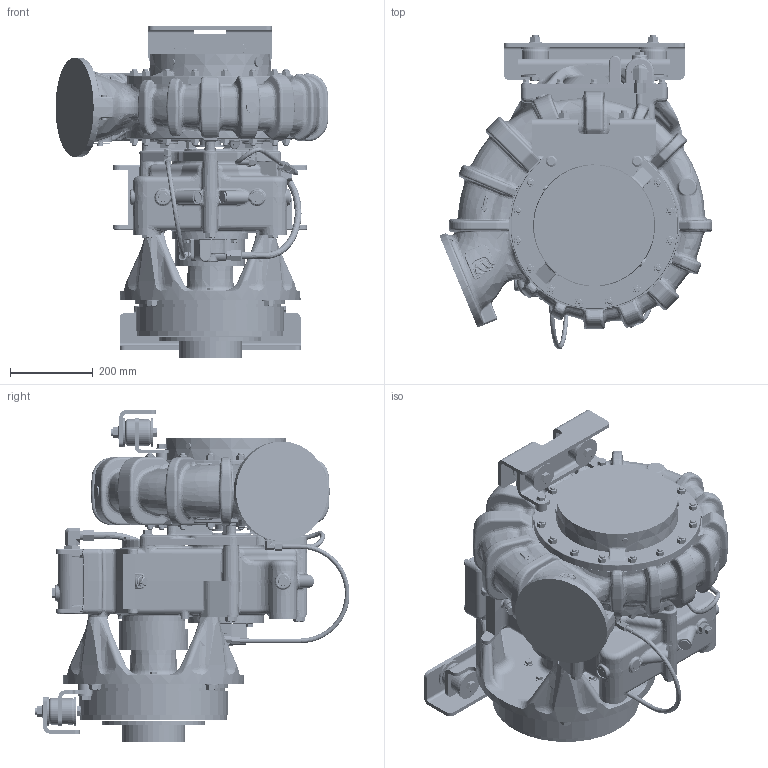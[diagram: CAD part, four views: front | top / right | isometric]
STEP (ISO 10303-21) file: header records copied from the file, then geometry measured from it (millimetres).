
FILE_DESCRIPTION((''),'2;1');
FILE_NAME('DZD0069_SW0001','2020-10-08T',('SSullivan'),(''),'PRO/ENGINEER BY PARAMETRIC TECHNOLOGY CORPORATION, 2013150','PRO/ENGINEER BY PARAMETRIC TECHNOLOGY CORPORATION, 2013150','');
FILE_SCHEMA(('CONFIG_CONTROL_DESIGN'));
Products named in the file (1): DZD0069_SW0001
Bounding box: 661.47 x 763.24 x 803.15 mm (x, y, z)
Surface area: 4605982.7 mm2 (no closed solid volume)
Topology: 0 solids, 358 shells, 5399 faces, 13965 edges, 8623 vertices
Faces by surface type: bspline 1785, plane 1400, cylinder 968, cone 911, torus 285, sphere 50
Entity records: 243474 total; most frequent: CARTESIAN_POINT 131312, ORIENTED_EDGE 25175, DIRECTION 18952, EDGE_CURVE 13965, VERTEX_POINT 8623, AXIS2_PLACEMENT_3D 7776, B_SPLINE_CURVE_WITH_KNOTS 6403, EDGE_LOOP 5399
